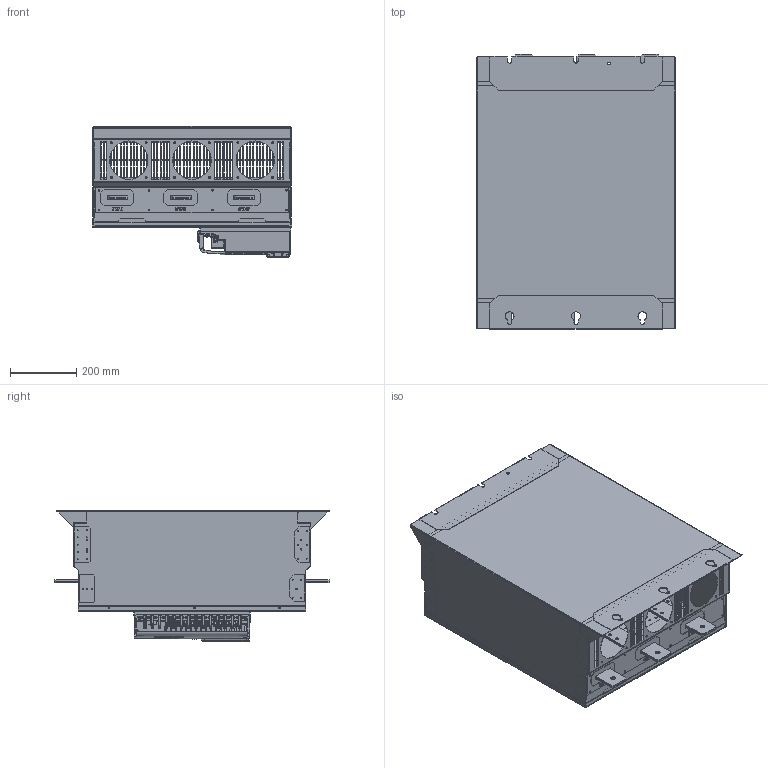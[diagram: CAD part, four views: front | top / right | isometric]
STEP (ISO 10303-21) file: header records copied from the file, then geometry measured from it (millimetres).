
FILE_DESCRIPTION(('STEP AP203'), '1');
FILE_NAME('SNI 450-800 êÂò', '2024-05-06T19:03:02', ('admin'), (''), 'C3D Converter', 'C3D Toolkit', '');
FILE_SCHEMA(('CONFIG_CONTROL_DESIGN'));
Length unit declared in the file: millimetre
Products named in the file (45): SNI-1000/1200-06; SNI; 7000-DUANZI-750-1P_AF0_3___; 7000-DUANZI-750-1P_AF1_3___; 7000-DUANZI-750-1P_AF2_3___; 7000-DUANZI-750-1P_AF3_3___; 7000-DUANZI-750-1P_AF4_3___; 7000-DUANZI-750-1P_AF5_3___; 7000-DUANZI-750-1P_AF6_3___; 7000-DUANZI-750-1P_AF7_3___; 7000-DUANZI-750-1P_AF8_3___; 7000-DUANZI-750-1P_AF9_3___; 7000-DUANZI-750-1P_AF10_3___; 7000-DUANZI-750-1P_AF11_3___
Assembly tree (65 placements, depth 5):
  SNI-1000/1200-06
    SNI
      SNI  x3
        SNI
          SNI
          SNI
        SNI
          SNI  x2
      SNI
      SNI
    SNI
      SNI
      SNI
      SNI
        SNI
    SNI
      SNI
      SNI
        SNI
        SNI
        SNI  x3
          SNI
        SNI
          SNI  x5
        SNI
          7000-DUANZI-750-1P_AF0_3___
          7000-DUANZI-750-1P_AF1_3___
          7000-DUANZI-750-1P_AF2_3___
          7000-DUANZI-750-1P_AF3_3___
          7000-DUANZI-750-1P_AF4_3___
          7000-DUANZI-750-1P_AF5_3___
          7000-DUANZI-750-1P_AF6_3___
          7000-DUANZI-750-1P_AF7_3___
          7000-DUANZI-750-1P_AF8_3___
          7000-DUANZI-750-1P_AF9_3___
        SNI
          SNI  x10
        SNI
          7000-DUANZI-750-1P_AF10_3___
          7000-DUANZI-750-1P_AF11_3___
        SNI
        SNI
          SNI
          SNI
          SNI
          SNI
      SNI
Bounding box: 602 x 830.59 x 395.25 mm (x, y, z)
Volume: 5225117.3 mm3; surface area: 5285699.1 mm2
Topology: 57 solids, 63 shells, 6063 faces, 16504 edges, 10647 vertices
Faces by surface type: plane 4152, cylinder 1224, bspline 516, cone 72, torus 52, sphere 37, extrusion 7, revolution 3
Full cylindrical faces by diameter (mm): 0.5 x2, 2 x6, 2.3 x8, 3 x87, 3.2 x4, 3.3 x6, 3.34 x1, 3.8 x33, 4 x62, 4.064 x4, 5 x42, 5.3 x12, 5.4 x24, 5.7 x2, 7.2 x23, 8 x2, 9 x36, 11 x6, 14 x12, 16 x6, 116 x3
Entity records: 256082 total; most frequent: CARTESIAN_POINT 97797, ORIENTED_EDGE 25383, DIRECTION 21351, EDGE_CURVE 12716, VECTOR 9252, LINE 9245, VERTEX_POINT 8383, EDGE_LOOP 6081
